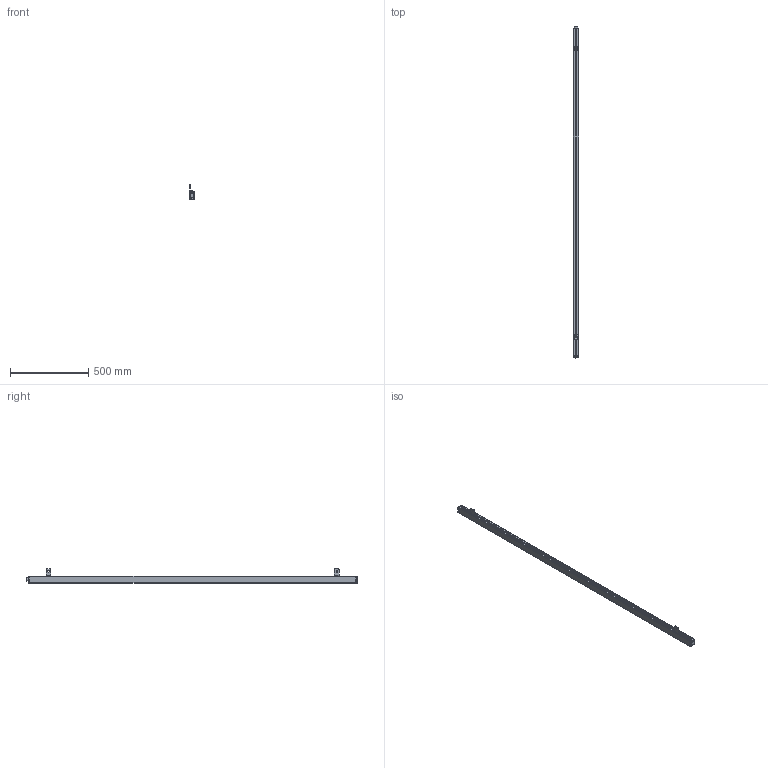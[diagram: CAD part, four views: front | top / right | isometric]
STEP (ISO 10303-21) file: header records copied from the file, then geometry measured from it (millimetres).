
FILE_DESCRIPTION((''),'2;1');
FILE_NAME('ESCL-00_ASM','2021-07-17T10:36:46',('18720616900'),(''),'CREO PARAMETRIC BY PTC INC, 2019010','CREO PARAMETRIC BY PTC INC, 2019010','');
FILE_SCHEMA(('CONFIG_CONTROL_DESIGN'));
Products named in the file (12): ESCL-00; ESCL-3-SOLID1000; ESCL-4-SOLID1000; HKCT1_-4-SOLID1; L10001; M6-8--0001; M6-1--00; M6-1-00; 00; M6-80001_ASM; L1--0001_ASM; ESCL-00_ASM
Assembly tree (12 placements, depth 4):
  ESCL-00_ASM
    ESCL-00
    ESCL-3-SOLID1000
    ESCL-4-SOLID1000
    HKCT1_-4-SOLID1
    L1--0001_ASM  x2
      L10001
      M6-80001_ASM
        M6-8--0001
        M6-1--00
        M6-1-00
        00
Bounding box: 36.1 x 2125.1 x 91.11 mm (x, y, z)
Volume: 3040519.1 mm3; surface area: 437616.8 mm2
Topology: 14 solids, 14 shells, 625 faces, 1645 edges, 1070 vertices
Faces by surface type: plane 226, cylinder 208, cone 78, bspline 66, torus 47
Entity records: 76177 total; most frequent: CARTESIAN_POINT 63991, ORIENTED_EDGE 2664, DIRECTION 2275, EDGE_CURVE 1332, VERTEX_POINT 872, AXIS2_PLACEMENT_3D 816, VECTOR 643, LINE 643
